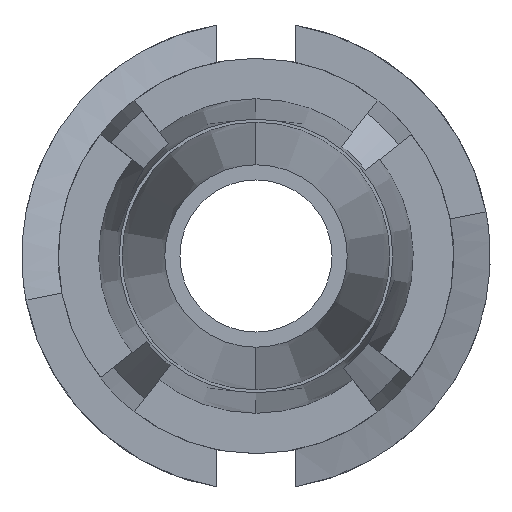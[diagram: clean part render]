
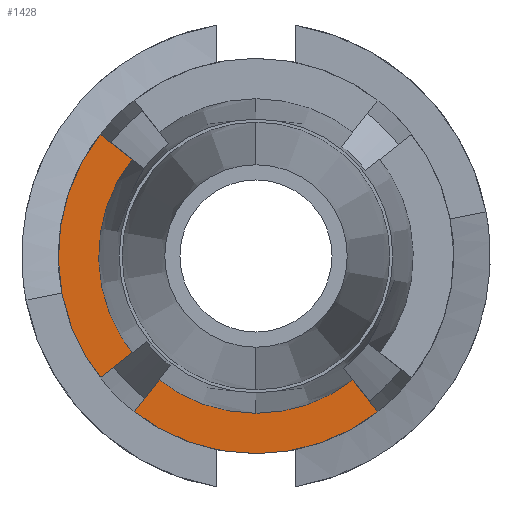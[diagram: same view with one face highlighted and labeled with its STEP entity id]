
A CAD part, left-side view. The second image highlights one B-rep face of the part: STEP entity #1428.
In plain terms, the highlighted planar face has unit normal (-1, 0, 0).
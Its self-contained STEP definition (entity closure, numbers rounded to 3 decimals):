
#74 = DIRECTION ( 'NONE',  ( 1., 0., 0. ) ) ;
#128 = EDGE_CURVE ( 'NONE', #1047, #1396, #933, .T. ) ;
#135 = EDGE_CURVE ( 'NONE', #1681, #1309, #1558, .T. ) ;
#137 = ORIENTED_EDGE ( 'NONE', *, *, #1281, .T. ) ;
#181 = CIRCLE ( 'NONE', #424, 3.25 ) ;
#225 = CARTESIAN_POINT ( 'NONE',  ( -2.8, 0., 0. ) ) ;
#337 = PLANE ( 'NONE',  #1299 ) ;
#367 = CIRCLE ( 'NONE', #754, 3.25 ) ;
#424 = AXIS2_PLACEMENT_3D ( 'NONE', #1246, #1370, #1226 ) ;
#441 = LINE ( 'NONE', #1003, #1077 ) ;
#479 = DIRECTION ( 'NONE',  ( 0., 0., -1. ) ) ;
#482 = CARTESIAN_POINT ( 'NONE',  ( -2.8, 0., -3.25 ) ) ;
#590 = DIRECTION ( 'NONE',  ( 1., 0., 0. ) ) ;
#619 = CARTESIAN_POINT ( 'NONE',  ( -2.8, 0., -2.586 ) ) ;
#726 = DIRECTION ( 'NONE',  ( 0., 0., -1. ) ) ;
#754 = AXIS2_PLACEMENT_3D ( 'NONE', #1310, #1459, #479 ) ;
#775 = EDGE_LOOP ( 'NONE', ( #1813, #137, #1839, #1608, #1516, #944 ) ) ;
#783 = AXIS2_PLACEMENT_3D ( 'NONE', #225, #74, #1659 ) ;
#821 = EDGE_CURVE ( 'NONE', #1396, #1681, #1592, .T. ) ;
#850 = CARTESIAN_POINT ( 'NONE',  ( -2.8, 0., 0. ) ) ;
#861 = DIRECTION ( 'NONE',  ( 0., 0.616, 0.788 ) ) ;
#933 = CIRCLE ( 'NONE', #1041, 2.586 ) ;
#941 = VERTEX_POINT ( 'NONE', #1122 ) ;
#944 = ORIENTED_EDGE ( 'NONE', *, *, #1182, .F. ) ;
#994 = VERTEX_POINT ( 'NONE', #482 ) ;
#1003 = CARTESIAN_POINT ( 'NONE',  ( -2.8, -2.001, -2.561 ) ) ;
#1034 = CARTESIAN_POINT ( 'NONE',  ( -2.8, 2.038, 1.592 ) ) ;
#1041 = AXIS2_PLACEMENT_3D ( 'NONE', #850, #590, #726 ) ;
#1047 = VERTEX_POINT ( 'NONE', #1208 ) ;
#1077 = VECTOR ( 'NONE', #861, 1000. ) ;
#1122 = CARTESIAN_POINT ( 'NONE',  ( -2.8, -2.001, -2.561 ) ) ;
#1162 = CARTESIAN_POINT ( 'NONE',  ( -2.8, 3.25, 0. ) ) ;
#1182 = EDGE_CURVE ( 'NONE', #994, #1309, #181, .T. ) ;
#1183 = FACE_OUTER_BOUND ( 'NONE', #775, .T. ) ;
#1208 = CARTESIAN_POINT ( 'NONE',  ( -2.8, -1.592, -2.038 ) ) ;
#1226 = DIRECTION ( 'NONE',  ( 0., 0., -1. ) ) ;
#1246 = CARTESIAN_POINT ( 'NONE',  ( -2.8, 0., 0. ) ) ;
#1281 = EDGE_CURVE ( 'NONE', #941, #1047, #441, .T. ) ;
#1299 = AXIS2_PLACEMENT_3D ( 'NONE', #1162, #1615, #1726 ) ;
#1309 = VERTEX_POINT ( 'NONE', #1544 ) ;
#1310 = CARTESIAN_POINT ( 'NONE',  ( -2.8, 0., 0. ) ) ;
#1370 = DIRECTION ( 'NONE',  ( 1., 0., 0. ) ) ;
#1396 = VERTEX_POINT ( 'NONE', #619 ) ;
#1406 = EDGE_CURVE ( 'NONE', #941, #994, #367, .T. ) ;
#1409 = VECTOR ( 'NONE', #1570, 1000. ) ;
#1410 = CARTESIAN_POINT ( 'NONE',  ( -2.8, 2.038, 1.592 ) ) ;
#1428 = ADVANCED_FACE ( 'NONE', ( #1183 ), #337, .T. ) ;
#1459 = DIRECTION ( 'NONE',  ( 1., 0., 0. ) ) ;
#1516 = ORIENTED_EDGE ( 'NONE', *, *, #135, .T. ) ;
#1544 = CARTESIAN_POINT ( 'NONE',  ( -2.8, 2.561, 2.001 ) ) ;
#1558 = LINE ( 'NONE', #1410, #1409 ) ;
#1570 = DIRECTION ( 'NONE',  ( 0., 0.788, 0.616 ) ) ;
#1592 = CIRCLE ( 'NONE', #783, 2.586 ) ;
#1608 = ORIENTED_EDGE ( 'NONE', *, *, #821, .T. ) ;
#1615 = DIRECTION ( 'NONE',  ( -1., 0., 0. ) ) ;
#1659 = DIRECTION ( 'NONE',  ( 0., 0., -1. ) ) ;
#1681 = VERTEX_POINT ( 'NONE', #1034 ) ;
#1726 = DIRECTION ( 'NONE',  ( 0., 0., 1. ) ) ;
#1813 = ORIENTED_EDGE ( 'NONE', *, *, #1406, .F. ) ;
#1839 = ORIENTED_EDGE ( 'NONE', *, *, #128, .T. ) ;
